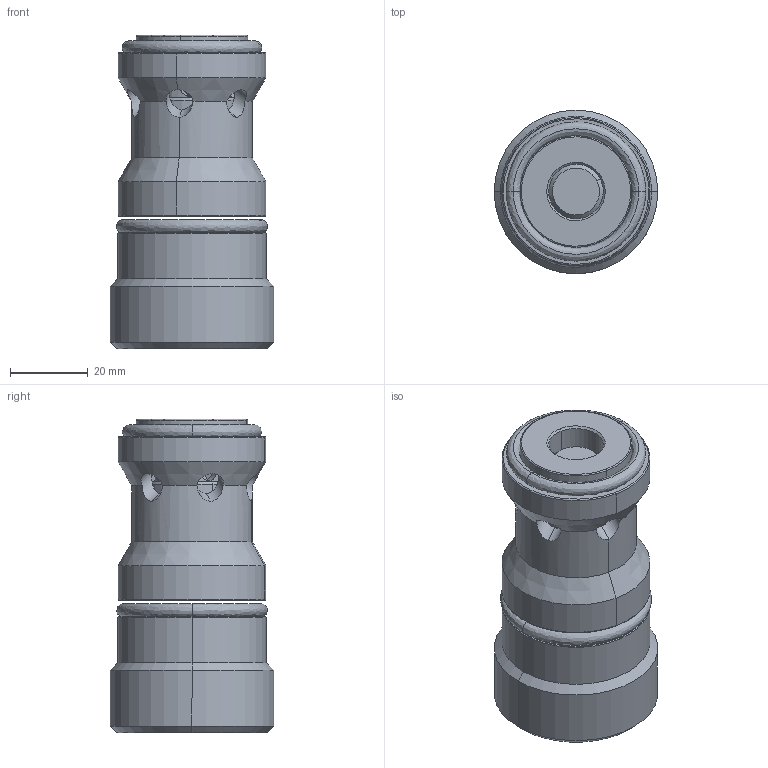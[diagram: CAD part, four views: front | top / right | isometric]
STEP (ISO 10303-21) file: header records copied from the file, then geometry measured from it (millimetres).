
FILE_DESCRIPTION (( 'STEP AP214' ), '1' );
FILE_NAME ('FT2267_6-34.STEP', '2015-03-30T19:37:34', ( '' ), ( '' ), 'SwSTEP 2.0', 'SolidWorks 2014', '' );
FILE_SCHEMA (( 'AUTOMOTIVE_DESIGN' ));
Length unit declared in the file: millimetre
Products named in the file (1): FT2267_6-34
Bounding box: 42 x 42 x 80.5 mm (x, y, z)
Surface area: 17540.8 mm2 (no closed solid volume)
Topology: 0 solids, 7 shells, 205 faces, 649 edges, 423 vertices
Faces by surface type: plane 81, cylinder 49, bspline 47, cone 20, torus 8
Entity records: 13131 total; most frequent: CARTESIAN_POINT 5655, ORIENTED_EDGE 1134, DIRECTION 885, EDGE_CURVE 647, VERTEX_POINT 423, LINE 335, VECTOR 335, AXIS2_PLACEMENT_3D 275
